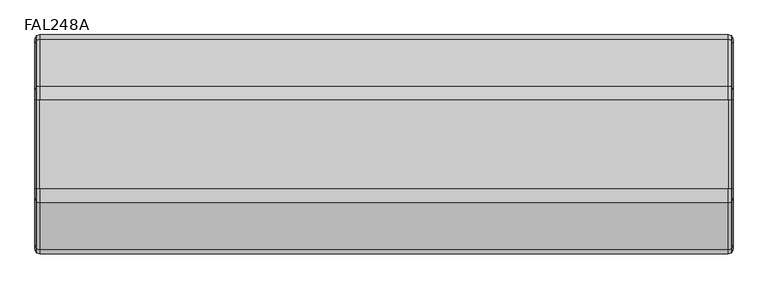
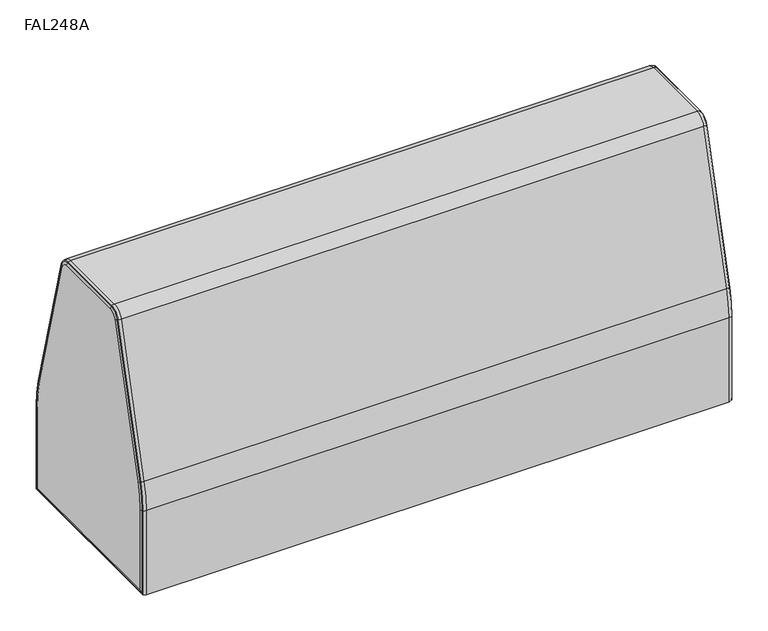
"""IFC4 building model written with IfcOpenShell, lengths in millimetres: furniture geometry, Stance_HC-Flora-Seat_Straight-Double_Side : FAL248A."""

from ifc_helpers import new_model, si_unit, point, frame, origin, place, context, project, spatial, circle_curve, ellipse_curve, trimmed, source, transform, mapped, element, save
from ifc_brep_helpers import plane_surface, cylinder_surface, revolved_surface, advanced_brep


def fal248a_cc7b1910(model_context):
    return source(origin(), model_context, "Body", "AdvancedBrep", [
        advanced_brep(
        [(1231.9, -184.6252072, 207.1687439), (1231.9, 184.6252072, 207.1687439), (1231.9, 184.6252072, 383.9115542), (1231.9, 177.1333598, 440.8177792), (1231.9, 94.5959207, 748.8516661), (1231.9, 78.4951447, 761.2062258), (1231.9, -78.4951447, 761.2062258), (1231.9, -94.5959207, 748.8516661), (1231.9, -177.1333598, 440.8177792), (1231.9, -184.6252072, 383.9115542), (0.0, 184.6252072, 207.1687439), (0.0, -184.6252072, 207.1687439), (0.0, -184.6252072, 383.9115542), (0.0, -177.1333598, 440.8177792), (0.0, -94.5959207, 748.8516661), (0.0, -78.4951447, 761.2062258), (0.0, 78.4951447, 761.2062258), (0.0, 94.5959207, 748.8516661), (0.0, 177.1333598, 440.8177792), (0.0, 184.6252072, 383.9115542), (1223.4158065, -193.3564572, 198.4374939), (8.4841935, -193.3564572, 198.4374939), (8.4841935, 193.3564572, 198.4374939), (1223.4158065, 193.3564572, 198.4374939), (1223.4158065, 78.4951447, 769.9374758), (8.4841935, 78.4951447, 769.9374758), (8.4841935, -78.4951447, 769.9374758), (1223.4158065, -78.4951447, 769.9374758), (2.6434528, -190.3181767, 201.4757744), (2.6434528, 190.3181767, 201.4757744), (2.5810757, 192.2518664, 199.5420847), (2.5810757, -192.2518664, 199.5420847), (2.6434528, 78.4951447, 766.8991953), (2.6434528, -78.4951447, 766.8991953), (2.5810757, -78.4951447, 768.832885), (2.5810757, 78.4951447, 768.832885), (1229.3189243, 192.2518664, 199.5420847), (1229.3189243, -192.2518664, 199.5420847), (1229.2565472, 190.3181767, 201.4757744), (1229.2565472, -190.3181767, 201.4757744), (1229.3189243, -78.4951447, 768.832885), (1229.3189243, 78.4951447, 768.832885), (1229.2565472, -78.4951447, 766.8991953), (1229.2565472, 78.4951447, 766.8991953), (1223.4158065, -103.0296605, 751.1114801), (1229.3189243, -101.9627077, 750.825591), (1229.2565472, -100.0949069, 750.3251152), (2.6434528, -100.0949069, 750.3251152), (2.5810757, -101.9627077, 750.825591), (8.4841935, -103.0296605, 751.1114801), (1223.4158065, -185.5670997, 443.0775932), (1229.3189243, -184.5001469, 442.791704), (1229.2565472, -182.6323461, 442.2912283), (2.6434528, -182.6323461, 442.2912283), (2.5810757, -184.5001469, 442.791704), (8.4841935, -185.5670997, 443.0775932), (1223.4158065, -193.3564572, 383.9115542), (1229.3189243, -192.2518664, 383.9115542), (1229.2565472, -190.3181767, 383.9115542), (2.6434528, -190.3181767, 383.9115542), (2.5810757, -192.2518664, 383.9115542), (8.4841935, -193.3564572, 383.9115542), (1223.4158065, 193.3564572, 383.9115542), (1229.3189243, 192.2518664, 383.9115542), (1229.2565472, 190.3181767, 383.9115542), (2.6434528, 190.3181767, 383.9115542), (2.5810757, 192.2518664, 383.9115542), (8.4841935, 193.3564572, 383.9115542), (1223.4158065, 185.5670997, 443.0775932), (1229.3189243, 184.5001469, 442.791704), (1229.2565472, 182.6323461, 442.2912283), (2.6434528, 182.6323461, 442.2912283), (2.5810757, 184.5001469, 442.791704), (8.4841935, 185.5670997, 443.0775932), (1223.4158065, 103.0296605, 751.1114801), (1229.3189243, 101.9627077, 750.825591), (1229.2565472, 100.0949069, 750.3251152), (2.6434528, 100.0949069, 750.3251152), (2.5810757, 101.9627077, 750.825591), (8.4841935, 103.0296605, 751.1114801)],
        [
            (0, 1),
            (1, 2),
            (2, 3, circle_curve(frame((1231.9, -35.2435428, 383.9115542), z_axis=(1.0, 0.0, 0.0), x_axis=(0.0, 1.0, 0.0)), 219.86875)),
            (3, 4),
            (4, 5, circle_curve(frame((1231.9, 78.4951447, 744.5374758), z_axis=(1.0, 0.0, 0.0), x_axis=(0.0, 0.9659258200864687, 0.2588190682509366)), 16.66875)),
            (5, 6),
            (6, 7, circle_curve(frame((1231.9, -78.4951447, 744.5374758), z_axis=(1.0, 0.0, 0.0), x_axis=(0.0, 0.0, 1.0)), 16.66875)),
            (7, 8),
            (8, 9, circle_curve(frame((1231.9, 35.2435428, 383.9115542), z_axis=(1.0, 0.0, 0.0), x_axis=(0.0, -0.9659258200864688, 0.25881906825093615)), 219.86875)),
            (9, 0),
            (10, 11),
            (11, 12),
            (12, 13, circle_curve(frame((0.0, 35.2435428, 383.9115542), z_axis=(-1.0, 0.0, 0.0), x_axis=(0.0, -0.9659258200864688, 0.25881906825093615)), 219.86875)),
            (13, 14),
            (14, 15, circle_curve(frame((0.0, -78.4951447, 744.5374758), z_axis=(-1.0, 0.0, 0.0), x_axis=(0.0, 0.0, 1.0)), 16.66875)),
            (15, 16),
            (16, 17, circle_curve(frame((0.0, 78.4951447, 744.5374758), z_axis=(-1.0, 0.0, 0.0), x_axis=(0.0, 0.9659258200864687, 0.2588190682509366)), 16.66875)),
            (17, 18),
            (18, 19, circle_curve(frame((0.0, -35.2435428, 383.9115542), z_axis=(-1.0, 0.0, 0.0), x_axis=(0.0, 1.0, 0.0)), 219.86875)),
            (19, 10),
            (20, 21),
            (21, 22),
            (22, 23),
            (23, 20),
            (24, 25),
            (25, 26),
            (26, 27),
            (27, 24),
            (28, 11, ellipse_curve(frame((7.4519478, -184.6252072, 207.1687439), z_axis=(0.0, 0.7071067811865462, -0.7071067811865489), x_axis=(0.0, -0.7071067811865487, -0.7071067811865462)), 10.5386456, 7.4519478)),
            (10, 29, ellipse_curve(frame((7.4519478, 184.6252072, 207.1687439), z_axis=(0.0, -0.7071067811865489, -0.707106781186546), x_axis=(0.0, -0.7071067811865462, 0.7071067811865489)), 10.5386456, 7.4519478)),
            (29, 28),
            (29, 30, ellipse_curve(frame((2.9517888, 191.295974, 200.4979772), z_axis=(0.0, -0.7071067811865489, -0.707106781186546), x_axis=(0.0, -0.7071067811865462, 0.7071067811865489)), 1.4499369, 1.0252602)),
            (30, 31),
            (31, 28, ellipse_curve(frame((2.9517888, -191.295974, 200.4979772), z_axis=(0.0, 0.7071067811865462, -0.7071067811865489), x_axis=(0.0, -0.7071067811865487, -0.7071067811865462)), 1.4499369, 1.0252602)),
            (21, 31, ellipse_curve(frame((8.4841935, -177.0305381, 214.763413), z_axis=(0.0, 0.7071067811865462, -0.7071067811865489), x_axis=(0.0, -0.7071067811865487, -0.7071067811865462)), 23.0883362, 16.3259191)),
            (30, 22, ellipse_curve(frame((8.4841935, 177.0305381, 214.763413), z_axis=(0.0, -0.7071067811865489, -0.707106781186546), x_axis=(0.0, -0.7071067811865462, 0.7071067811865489)), 23.0883362, 16.3259191)),
            (32, 16, circle_curve(frame((7.4519478, 78.4951447, 761.2062258), z_axis=(0.0, -1.0, 0.0), x_axis=(0.0, 0.0, -1.0)), 7.4519478)),
            (15, 33, circle_curve(frame((7.4519478, -78.4951447, 761.2062258), z_axis=(0.0, 1.0, 0.0), x_axis=(0.0, 0.0, -1.0)), 7.4519478)),
            (33, 32),
            (33, 34, circle_curve(frame((2.9517888, -78.4951447, 767.8769926), z_axis=(0.0, 1.0, 0.0), x_axis=(0.0, 0.0, -1.0)), 1.0252602)),
            (34, 35),
            (35, 32, circle_curve(frame((2.9517888, 78.4951447, 767.8769926), z_axis=(0.0, -1.0, 0.0), x_axis=(0.0, 0.0, -1.0)), 1.0252602)),
            (25, 35, circle_curve(frame((8.4841935, 78.4951447, 753.6115567), z_axis=(0.0, -1.0, 0.0), x_axis=(0.0, 0.0, -1.0)), 16.3259191)),
            (34, 26, circle_curve(frame((8.4841935, -78.4951447, 753.6115567), z_axis=(0.0, 1.0, 0.0), x_axis=(0.0, 0.0, -1.0)), 16.3259191)),
            (23, 36, ellipse_curve(frame((1223.4158065, 177.0305381, 214.763413), z_axis=(0.0, -0.7071067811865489, -0.707106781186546), x_axis=(0.0, -0.7071067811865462, 0.7071067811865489)), 23.0883362, 16.3259191)),
            (36, 37),
            (37, 20, ellipse_curve(frame((1223.4158065, -177.0305381, 214.763413), z_axis=(0.0, 0.7071067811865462, -0.7071067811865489), x_axis=(0.0, -0.7071067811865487, -0.7071067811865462)), 23.0883362, 16.3259191)),
            (36, 38, ellipse_curve(frame((1228.9482112, 191.295974, 200.4979772), z_axis=(0.0, -0.7071067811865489, -0.707106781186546), x_axis=(0.0, -0.7071067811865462, 0.7071067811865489)), 1.4499369, 1.0252602)),
            (38, 39),
            (39, 37, ellipse_curve(frame((1228.9482112, -191.295974, 200.4979772), z_axis=(0.0, 0.7071067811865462, -0.7071067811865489), x_axis=(0.0, -0.7071067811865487, -0.7071067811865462)), 1.4499369, 1.0252602)),
            (38, 1, ellipse_curve(frame((1224.4480522, 184.6252072, 207.1687439), z_axis=(0.0, -0.7071067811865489, -0.707106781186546), x_axis=(0.0, -0.7071067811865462, 0.7071067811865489)), 10.5386456, 7.4519478)),
            (0, 39, ellipse_curve(frame((1224.4480522, -184.6252072, 207.1687439), z_axis=(0.0, 0.7071067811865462, -0.7071067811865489), x_axis=(0.0, -0.7071067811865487, -0.7071067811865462)), 10.5386456, 7.4519478)),
            (27, 40, circle_curve(frame((1223.4158065, -78.4951447, 753.6115567), z_axis=(0.0, 1.0, 0.0), x_axis=(0.0, 0.0, -1.0)), 16.3259191)),
            (40, 41),
            (41, 24, circle_curve(frame((1223.4158065, 78.4951447, 753.6115567), z_axis=(0.0, -1.0, 0.0), x_axis=(0.0, 0.0, -1.0)), 16.3259191)),
            (40, 42, circle_curve(frame((1228.9482112, -78.4951447, 767.8769926), z_axis=(0.0, 1.0, 0.0), x_axis=(0.0, 0.0, -1.0)), 1.0252602)),
            (42, 43),
            (43, 41, circle_curve(frame((1228.9482112, 78.4951447, 767.8769926), z_axis=(0.0, -1.0, 0.0), x_axis=(0.0, 0.0, -1.0)), 1.0252602)),
            (42, 6, circle_curve(frame((1224.4480522, -78.4951447, 761.2062258), z_axis=(0.0, 1.0, 0.0), x_axis=(0.0, 0.0, -1.0)), 7.4519478)),
            (5, 43, circle_curve(frame((1224.4480522, 78.4951447, 761.2062258), z_axis=(0.0, -1.0, 0.0), x_axis=(0.0, 0.0, -1.0)), 7.4519478)),
            (27, 44, circle_curve(frame((1223.4158065, -78.4951447, 744.5374758), z_axis=(1.0, 0.0, 0.0), x_axis=(0.0, 0.0, 1.0)), 25.4)),
            (44, 45, circle_curve(frame((1223.4158065, -87.2600337, 746.8860209), z_axis=(0.0, 0.2588190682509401, 0.9659258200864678), x_axis=(0.0, 0.9659258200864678, -0.2588190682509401)), 16.3259191)),
            (45, 40, circle_curve(frame((1229.3189243, -78.4951447, 744.5374758), z_axis=(-1.0, 0.0, 0.0), x_axis=(0.0, 0.0, 1.0)), 24.2954092)),
            (45, 46, circle_curve(frame((1228.9482112, -101.0393866, 750.5781878), z_axis=(0.0, 0.25881906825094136, 0.9659258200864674), x_axis=(0.0, 0.9659258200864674, -0.25881906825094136)), 1.0252602)),
            (46, 42, circle_curve(frame((1229.2565472, -78.4951447, 744.5374758), z_axis=(-1.0, 0.0, 0.0), x_axis=(0.0, 0.0, 1.0)), 22.3617195)),
            (46, 7, circle_curve(frame((1224.4480522, -94.5959207, 748.8516661), z_axis=(0.0, 0.2588190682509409, 0.9659258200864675), x_axis=(0.0, 0.9659258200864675, -0.2588190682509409)), 7.4519478)),
            (14, 47, circle_curve(frame((7.4519478, -94.5959207, 748.8516661), z_axis=(0.0, 0.25881906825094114, 0.9659258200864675), x_axis=(0.0, 0.9659258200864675, -0.25881906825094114)), 7.4519478)),
            (47, 33, circle_curve(frame((2.6434528, -78.4951447, 744.5374758), z_axis=(-1.0, 0.0, 0.0), x_axis=(0.0, 0.0, 1.0)), 22.3617195)),
            (47, 48, circle_curve(frame((2.9517888, -101.0393866, 750.5781878), z_axis=(0.0, 0.25881906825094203, 0.9659258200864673), x_axis=(0.0, 0.9659258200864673, -0.25881906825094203)), 1.0252602)),
            (48, 34, circle_curve(frame((2.5810757, -78.4951447, 744.5374758), z_axis=(-1.0, 0.0, 0.0), x_axis=(0.0, 0.0, 1.0)), 24.2954092)),
            (48, 49, circle_curve(frame((8.4841935, -87.2600337, 746.8860209), z_axis=(0.0, 0.2588190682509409, 0.9659258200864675), x_axis=(0.0, 0.9659258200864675, -0.2588190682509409)), 16.3259191)),
            (49, 26, circle_curve(frame((8.4841935, -78.4951447, 744.5374758), z_axis=(-1.0, 0.0, 0.0), x_axis=(0.0, 0.0, 1.0)), 25.4)),
            (49, 44),
            (44, 50),
            (50, 51, circle_curve(frame((1223.4158065, -169.7974729, 438.852134), z_axis=(0.0, 0.25881906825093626, 0.9659258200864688), x_axis=(0.0, 0.9659258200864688, -0.25881906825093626)), 16.3259191)),
            (51, 45),
            (51, 52, circle_curve(frame((1228.9482112, -183.5768257, 442.5443008), z_axis=(0.0, 0.25881906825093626, 0.9659258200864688), x_axis=(0.0, 0.9659258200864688, -0.25881906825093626)), 1.0252602)),
            (52, 46),
            (52, 8, circle_curve(frame((1224.4480522, -177.1333598, 440.8177792), z_axis=(0.0, 0.25881906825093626, 0.9659258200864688), x_axis=(0.0, 0.9659258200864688, -0.25881906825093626)), 7.4519478)),
            (13, 53, circle_curve(frame((7.4519478, -177.1333598, 440.8177792), z_axis=(0.0, 0.25881906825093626, 0.9659258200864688), x_axis=(0.0, 0.9659258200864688, -0.25881906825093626)), 7.4519478)),
            (53, 47),
            (53, 54, circle_curve(frame((2.9517888, -183.5768257, 442.5443008), z_axis=(0.0, 0.25881906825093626, 0.9659258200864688), x_axis=(0.0, 0.9659258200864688, -0.25881906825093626)), 1.0252602)),
            (54, 48),
            (54, 55, circle_curve(frame((8.4841935, -169.7974729, 438.852134), z_axis=(0.0, 0.25881906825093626, 0.9659258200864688), x_axis=(0.0, 0.9659258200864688, -0.25881906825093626)), 16.3259191)),
            (55, 49),
            (55, 50),
            (50, 56, circle_curve(frame((1223.4158065, 35.2435428, 383.9115542), z_axis=(1.0, 0.0, 0.0), x_axis=(0.0, -0.9659258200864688, 0.25881906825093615)), 228.6)),
            (56, 57, circle_curve(frame((1223.4158065, -177.0305381, 383.9115542), z_axis=(0.0, 0.0, 1.0), x_axis=(0.0, 1.0, 0.0)), 16.3259191)),
            (57, 51, circle_curve(frame((1229.3189243, 35.2435428, 383.9115542), z_axis=(-1.0, 0.0, 0.0), x_axis=(0.0, -0.9659258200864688, 0.25881906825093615)), 227.4954092)),
            (57, 58, circle_curve(frame((1228.9482112, -191.295974, 383.9115542), z_axis=(0.0, 0.0, 1.0), x_axis=(0.0, 1.0, 0.0)), 1.0252602)),
            (58, 52, circle_curve(frame((1229.2565472, 35.2435428, 383.9115542), z_axis=(-1.0, 0.0, 0.0), x_axis=(0.0, -0.9659258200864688, 0.25881906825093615)), 225.5617195)),
            (58, 9, circle_curve(frame((1224.4480522, -184.6252072, 383.9115542), z_axis=(0.0, 0.0, 1.0), x_axis=(0.0, 1.0, 0.0)), 7.4519478)),
            (12, 59, circle_curve(frame((7.4519478, -184.6252072, 383.9115542), z_axis=(0.0, 0.0, 0.9999999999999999), x_axis=(0.0, 0.9999999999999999, 0.0)), 7.4519478)),
            (59, 53, circle_curve(frame((2.6434528, 35.2435428, 383.9115542), z_axis=(-1.0, 0.0, 0.0), x_axis=(0.0, -0.9659258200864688, 0.25881906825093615)), 225.5617195)),
            (59, 60, circle_curve(frame((2.9517888, -191.295974, 383.9115542), z_axis=(0.0, 0.0, 1.0), x_axis=(0.0, 1.0, 0.0)), 1.0252602)),
            (60, 54, circle_curve(frame((2.5810757, 35.2435428, 383.9115542), z_axis=(-1.0, 0.0, 0.0), x_axis=(0.0, -0.9659258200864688, 0.25881906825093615)), 227.4954092)),
            (60, 61, circle_curve(frame((8.4841935, -177.0305381, 383.9115542), z_axis=(0.0, 0.0, 1.0), x_axis=(0.0, 1.0, 0.0)), 16.3259191)),
            (61, 55, circle_curve(frame((8.4841935, 35.2435428, 383.9115542), z_axis=(-1.0, 0.0, 0.0), x_axis=(0.0, -0.9659258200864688, 0.25881906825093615)), 228.6)),
            (61, 56),
            (37, 57),
            (56, 20),
            (39, 58),
            (28, 59),
            (31, 60),
            (21, 61),
            (23, 62),
            (62, 63, circle_curve(frame((1223.4158065, 177.0305381, 383.9115542), z_axis=(0.0, 0.0, -1.0), x_axis=(0.0, -1.0, 0.0)), 16.3259191)),
            (63, 36),
            (63, 64, circle_curve(frame((1228.9482112, 191.295974, 383.9115542), z_axis=(0.0, 0.0, -1.0), x_axis=(0.0, -1.0, 0.0)), 1.0252602)),
            (64, 38),
            (64, 2, circle_curve(frame((1224.4480522, 184.6252072, 383.9115542), z_axis=(0.0, 0.0, -1.0), x_axis=(0.0, -1.0, 0.0)), 7.4519478)),
            (19, 65, circle_curve(frame((7.4519478, 184.6252072, 383.9115542), z_axis=(0.0, 0.0, -1.0), x_axis=(0.0, -1.0, 0.0)), 7.4519478)),
            (65, 29),
            (65, 66, circle_curve(frame((2.9517888, 191.295974, 383.9115542), z_axis=(0.0, 0.0, -1.0), x_axis=(0.0, -1.0, 0.0)), 1.0252602)),
            (66, 30),
            (66, 67, circle_curve(frame((8.4841935, 177.0305381, 383.9115542), z_axis=(0.0, 0.0, -1.0), x_axis=(0.0, -1.0, 0.0)), 16.3259191)),
            (67, 22),
            (67, 62),
            (62, 68, circle_curve(frame((1223.4158065, -35.2435428, 383.9115542), z_axis=(1.0, 0.0, 0.0), x_axis=(0.0, 1.0, 0.0)), 228.6)),
            (68, 69, circle_curve(frame((1223.4158065, 169.7974729, 438.852134), z_axis=(0.0, 0.2588190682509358, -0.9659258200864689), x_axis=(0.0, -0.9659258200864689, -0.2588190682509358)), 16.3259191)),
            (69, 63, circle_curve(frame((1229.3189243, -35.2435428, 383.9115542), z_axis=(-1.0, 0.0, 0.0), x_axis=(0.0, 1.0, 0.0)), 227.4954092)),
            (69, 70, circle_curve(frame((1228.9482112, 183.5768257, 442.5443008), z_axis=(0.0, 0.2588190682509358, -0.9659258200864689), x_axis=(0.0, -0.9659258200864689, -0.2588190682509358)), 1.0252602)),
            (70, 64, circle_curve(frame((1229.2565472, -35.2435428, 383.9115542), z_axis=(-1.0, 0.0, 0.0), x_axis=(0.0, 1.0, 0.0)), 225.5617195)),
            (70, 3, circle_curve(frame((1224.4480522, 177.1333598, 440.8177792), z_axis=(0.0, 0.2588190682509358, -0.9659258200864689), x_axis=(0.0, -0.9659258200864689, -0.2588190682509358)), 7.4519478)),
            (18, 71, circle_curve(frame((7.4519478, 177.1333598, 440.8177792), z_axis=(0.0, 0.2588190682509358, -0.9659258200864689), x_axis=(0.0, -0.9659258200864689, -0.2588190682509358)), 7.4519478)),
            (71, 65, circle_curve(frame((2.6434528, -35.2435428, 383.9115542), z_axis=(-1.0, 0.0, 0.0), x_axis=(0.0, 1.0, 0.0)), 225.5617195)),
            (71, 72, circle_curve(frame((2.9517888, 183.5768257, 442.5443008), z_axis=(0.0, 0.25881906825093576, -0.9659258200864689), x_axis=(0.0, -0.9659258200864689, -0.25881906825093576)), 1.0252602)),
            (72, 66, circle_curve(frame((2.5810757, -35.2435428, 383.9115542), z_axis=(-1.0, 0.0, 0.0), x_axis=(0.0, 1.0, 0.0)), 227.4954092)),
            (72, 73, circle_curve(frame((8.4841935, 169.7974729, 438.852134), z_axis=(0.0, 0.25881906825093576, -0.9659258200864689), x_axis=(0.0, -0.9659258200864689, -0.25881906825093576)), 16.3259191)),
            (73, 67, circle_curve(frame((8.4841935, -35.2435428, 383.9115542), z_axis=(-1.0, 0.0, 0.0), x_axis=(0.0, 1.0, 0.0)), 228.6)),
            (73, 68),
            (68, 74),
            (74, 75, circle_curve(frame((1223.4158065, 87.2600337, 746.8860209), z_axis=(0.0, 0.25881906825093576, -0.9659258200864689), x_axis=(0.0, -0.9659258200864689, -0.25881906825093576)), 16.3259191)),
            (75, 69),
            (75, 76, circle_curve(frame((1228.9482112, 101.0393866, 750.5781878), z_axis=(0.0, 0.25881906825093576, -0.9659258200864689), x_axis=(0.0, -0.9659258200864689, -0.25881906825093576)), 1.0252602)),
            (76, 70),
            (76, 4, circle_curve(frame((1224.4480522, 94.5959207, 748.8516661), z_axis=(0.0, 0.25881906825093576, -0.9659258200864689), x_axis=(0.0, -0.9659258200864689, -0.25881906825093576)), 7.4519478)),
            (17, 77, circle_curve(frame((7.4519478, 94.5959207, 748.8516661), z_axis=(0.0, 0.25881906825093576, -0.9659258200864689), x_axis=(0.0, -0.9659258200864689, -0.25881906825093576)), 7.4519478)),
            (77, 71),
            (77, 78, circle_curve(frame((2.9517888, 101.0393866, 750.5781878), z_axis=(0.0, 0.25881906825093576, -0.9659258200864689), x_axis=(0.0, -0.9659258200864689, -0.25881906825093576)), 1.0252602)),
            (78, 72),
            (78, 79, circle_curve(frame((8.4841935, 87.2600337, 746.8860209), z_axis=(0.0, 0.25881906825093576, -0.9659258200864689), x_axis=(0.0, -0.9659258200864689, -0.25881906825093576)), 16.3259191)),
            (79, 73),
            (79, 74),
            (41, 75, circle_curve(frame((1229.3189243, 78.4951447, 744.5374758), z_axis=(-1.0, 0.0, 0.0), x_axis=(0.0, 0.9659258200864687, 0.2588190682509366)), 24.2954092)),
            (74, 24, circle_curve(frame((1223.4158065, 78.4951447, 744.5374758), z_axis=(1.0, 0.0, 0.0), x_axis=(0.0, 0.9659258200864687, 0.2588190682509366)), 25.4)),
            (43, 76, circle_curve(frame((1229.2565472, 78.4951447, 744.5374758), z_axis=(-1.0, 0.0, 0.0), x_axis=(0.0, 0.9659258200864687, 0.2588190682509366)), 22.3617195)),
            (32, 77, circle_curve(frame((2.6434528, 78.4951447, 744.5374758), z_axis=(-1.0, 0.0, 0.0), x_axis=(0.0, 0.9659258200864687, 0.2588190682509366)), 22.3617195)),
            (35, 78, circle_curve(frame((2.5810757, 78.4951447, 744.5374758), z_axis=(-1.0, 0.0, 0.0), x_axis=(0.0, 0.9659258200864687, 0.2588190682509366)), 24.2954092)),
            (25, 79, circle_curve(frame((8.4841935, 78.4951447, 744.5374758), z_axis=(-1.0, 0.0, 0.0), x_axis=(0.0, 0.9659258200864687, 0.2588190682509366)), 25.4)),
        ],
        [
            plane_surface(frame((1231.9, -78.4951447, 761.2062258), z_axis=(1.0, 0.0, 0.0), x_axis=(0.0, -1.0, 0.0))),
            plane_surface(frame((0.0, -78.4951447, 761.2062258), z_axis=(-1.0, 0.0, 0.0), x_axis=(0.0, 1.0, 0.0))),
            plane_surface(frame((8.4841935, -193.3564572, 198.4374939), z_axis=(0.0, 0.0, -1.0), x_axis=(0.0, 1.0, 0.0))),
            plane_surface(frame((8.4841935, 78.4951447, 769.9374758), z_axis=(0.0, 0.0, 1.0), x_axis=(0.0, -1.0, 0.0))),
            cylinder_surface(frame((7.4519478, -193.3564572, 207.1687439), z_axis=(0.0, -1.0, 0.0), x_axis=(0.0, 0.0, 1.0)), 7.4519478),
            cylinder_surface(frame((2.9517888, -193.3564572, 200.4979772), z_axis=(0.0, -1.0, 0.0), x_axis=(0.0, 0.0, 1.0)), 1.0252602),
            cylinder_surface(frame((8.4841935, -193.3564572, 214.763413), z_axis=(0.0, -1.0, 0.0), x_axis=(0.0, 0.0, 1.0)), 16.3259191),
            cylinder_surface(frame((7.4519478, 78.4951447, 761.2062258), z_axis=(0.0, 1.0, 0.0), x_axis=(0.0, 0.0, -1.0)), 7.4519478),
            cylinder_surface(frame((2.9517888, 78.4951447, 767.8769926), z_axis=(0.0, 1.0, 0.0), x_axis=(0.0, 0.0, -1.0)), 1.0252602),
            cylinder_surface(frame((8.4841935, 78.4951447, 753.6115567), z_axis=(0.0, 1.0, 0.0), x_axis=(0.0, 0.0, -1.0)), 16.3259191),
            cylinder_surface(frame((1223.4158065, -193.3564572, 214.763413), z_axis=(0.0, -1.0, 0.0), x_axis=(0.0, 0.0, 1.0)), 16.3259191),
            cylinder_surface(frame((1228.9482112, -193.3564572, 200.4979772), z_axis=(0.0, -1.0, 0.0), x_axis=(0.0, 0.0, 1.0)), 1.0252602),
            cylinder_surface(frame((1224.4480522, -193.3564572, 207.1687439), z_axis=(0.0, -1.0, 0.0), x_axis=(0.0, 0.0, 1.0)), 7.4519478),
            cylinder_surface(frame((1223.4158065, 78.4951447, 753.6115567), z_axis=(0.0, 1.0, 0.0), x_axis=(0.0, 0.0, -1.0)), 16.3259191),
            cylinder_surface(frame((1228.9482112, 78.4951447, 767.8769926), z_axis=(0.0, 1.0, 0.0), x_axis=(0.0, 0.0, -1.0)), 1.0252602),
            cylinder_surface(frame((1224.4480522, 78.4951447, 761.2062258), z_axis=(0.0, 1.0, 0.0), x_axis=(0.0, 0.0, -1.0)), 7.4519478),
            revolved_surface(trimmed(ellipse_curve(frame((1223.4158065, -78.4951447, 753.6115567), z_axis=(0.0, 1.0, 0.0), x_axis=(0.0, 0.0, -1.0)), 16.3259191, 16.3259191), [point((1223.4158065, -78.4951447, 769.9374758))], [point((1229.3189243, -78.4951447, 768.832885))], True, "CARTESIAN"), (0.0, -78.4951447, 744.5374758), (1.0, 0.0, 0.0)),
            revolved_surface(trimmed(ellipse_curve(frame((1228.9482112, -78.4951447, 767.8769926), z_axis=(0.0, 1.0, 0.0), x_axis=(0.0, 0.0, -1.0)), 1.0252602, 1.0252602), [point((1229.3189243, -78.4951447, 768.832885))], [point((1229.2565472, -78.4951447, 766.8991953))], True, "CARTESIAN"), (0.0, -78.4951447, 744.5374758), (1.0, 0.0, 0.0)),
            revolved_surface(trimmed(ellipse_curve(frame((1224.4480522, -78.4951447, 761.2062258), z_axis=(0.0, 1.0, 0.0), x_axis=(0.0, 0.0, -1.0)), 7.4519478, 7.4519478), [point((1229.2565472, -78.4951447, 766.8991953))], [point((1231.9, -78.4951447, 761.2062258))], True, "CARTESIAN"), (0.0, -78.4951447, 744.5374758), (1.0, 0.0, 0.0)),
            revolved_surface(trimmed(ellipse_curve(frame((7.4519478, -78.4951447, 761.2062258), z_axis=(0.0, 1.0, 0.0), x_axis=(0.0, 0.0, -1.0)), 7.4519478, 7.4519478), [point((0.0, -78.4951447, 761.2062258))], [point((2.6434528, -78.4951447, 766.8991953))], True, "CARTESIAN"), (0.0, -78.4951447, 744.5374758), (1.0, 0.0, 0.0)),
            revolved_surface(trimmed(ellipse_curve(frame((2.9517888, -78.4951447, 767.8769926), z_axis=(0.0, 1.0, 0.0), x_axis=(0.0, 0.0, -1.0)), 1.0252602, 1.0252602), [point((2.6434528, -78.4951447, 766.8991953))], [point((2.5810757, -78.4951447, 768.832885))], True, "CARTESIAN"), (0.0, -78.4951447, 744.5374758), (1.0, 0.0, 0.0)),
            revolved_surface(trimmed(ellipse_curve(frame((8.4841935, -78.4951447, 753.6115567), z_axis=(0.0, 1.0, 0.0), x_axis=(0.0, 0.0, -1.0)), 16.3259191, 16.3259191), [point((2.5810757, -78.4951447, 768.832885))], [point((8.4841935, -78.4951447, 769.9374758))], True, "CARTESIAN"), (0.0, -78.4951447, 744.5374758), (1.0, 0.0, 0.0)),
            cylinder_surface(frame((0.0, -78.4951447, 744.5374758), z_axis=(1.0, 0.0, 0.0), x_axis=(0.0, 0.0, 1.0)), 25.4),
            cylinder_surface(frame((1223.4158065, -87.2600337, 746.8860209), z_axis=(0.0, 0.25881906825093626, 0.9659258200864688), x_axis=(0.0, 0.9659258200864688, -0.25881906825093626)), 16.3259191),
            cylinder_surface(frame((1228.9482112, -101.0393866, 750.5781878), z_axis=(0.0, 0.25881906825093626, 0.9659258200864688), x_axis=(0.0, 0.9659258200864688, -0.25881906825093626)), 1.0252602),
            cylinder_surface(frame((1224.4480522, -94.5959207, 748.8516661), z_axis=(0.0, 0.25881906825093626, 0.9659258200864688), x_axis=(0.0, 0.9659258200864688, -0.25881906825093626)), 7.4519478),
            cylinder_surface(frame((7.4519478, -94.5959207, 748.8516661), z_axis=(0.0, 0.25881906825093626, 0.9659258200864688), x_axis=(0.0, 0.9659258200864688, -0.25881906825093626)), 7.4519478),
            cylinder_surface(frame((2.9517888, -101.0393866, 750.5781878), z_axis=(0.0, 0.25881906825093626, 0.9659258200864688), x_axis=(0.0, 0.9659258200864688, -0.25881906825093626)), 1.0252602),
            cylinder_surface(frame((8.4841935, -87.2600337, 746.8860209), z_axis=(0.0, 0.25881906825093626, 0.9659258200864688), x_axis=(0.0, 0.9659258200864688, -0.25881906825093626)), 16.3259191),
            plane_surface(frame((8.4841935, -103.0296605, 751.1114801), z_axis=(0.0, -0.9659258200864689, 0.2588190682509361), x_axis=(0.0, -0.2588190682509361, -0.9659258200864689))),
            revolved_surface(trimmed(ellipse_curve(frame((1223.4158065, -169.7974729, 438.852134), z_axis=(0.0, 0.2588190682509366, 0.9659258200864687), x_axis=(0.0, 0.9659258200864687, -0.2588190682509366)), 16.3259191, 16.3259191), [point((1223.4158065, -185.5670997, 443.0775932))], [point((1229.3189243, -184.5001469, 442.791704))], True, "CARTESIAN"), (0.0, 35.2435428, 383.9115542), (1.0, 0.0, 0.0)),
            revolved_surface(trimmed(ellipse_curve(frame((1228.9482112, -183.5768257, 442.5443008), z_axis=(0.0, 0.2588190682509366, 0.9659258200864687), x_axis=(0.0, 0.9659258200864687, -0.2588190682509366)), 1.0252602, 1.0252602), [point((1229.3189243, -184.5001469, 442.791704))], [point((1229.2565472, -182.6323461, 442.2912283))], True, "CARTESIAN"), (0.0, 35.2435428, 383.9115542), (1.0, 0.0, 0.0)),
            revolved_surface(trimmed(ellipse_curve(frame((1224.4480522, -177.1333598, 440.8177792), z_axis=(0.0, 0.2588190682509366, 0.9659258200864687), x_axis=(0.0, 0.9659258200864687, -0.2588190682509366)), 7.4519478, 7.4519478), [point((1229.2565472, -182.6323461, 442.2912283))], [point((1231.9, -177.1333598, 440.8177792))], True, "CARTESIAN"), (0.0, 35.2435428, 383.9115542), (1.0, 0.0, 0.0)),
            revolved_surface(trimmed(ellipse_curve(frame((7.4519478, -177.1333598, 440.8177792), z_axis=(0.0, 0.2588190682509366, 0.9659258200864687), x_axis=(0.0, 0.9659258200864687, -0.2588190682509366)), 7.4519478, 7.4519478), [point((0.0, -177.1333598, 440.8177792))], [point((2.6434528, -182.6323461, 442.2912283))], True, "CARTESIAN"), (0.0, 35.2435428, 383.9115542), (1.0, 0.0, 0.0)),
            revolved_surface(trimmed(ellipse_curve(frame((2.9517888, -183.5768257, 442.5443008), z_axis=(0.0, 0.2588190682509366, 0.9659258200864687), x_axis=(0.0, 0.9659258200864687, -0.2588190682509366)), 1.0252602, 1.0252602), [point((2.6434528, -182.6323461, 442.2912283))], [point((2.5810757, -184.5001469, 442.791704))], True, "CARTESIAN"), (0.0, 35.2435428, 383.9115542), (1.0, 0.0, 0.0)),
            revolved_surface(trimmed(ellipse_curve(frame((8.4841935, -169.7974729, 438.852134), z_axis=(0.0, 0.2588190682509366, 0.9659258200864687), x_axis=(0.0, 0.9659258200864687, -0.2588190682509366)), 16.3259191, 16.3259191), [point((2.5810757, -184.5001469, 442.791704))], [point((8.4841935, -185.5670997, 443.0775932))], True, "CARTESIAN"), (0.0, 35.2435428, 383.9115542), (1.0, 0.0, 0.0)),
            cylinder_surface(frame((0.0, 35.2435428, 383.9115542), z_axis=(1.0, 0.0, 0.0), x_axis=(0.0, -0.9659258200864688, 0.25881906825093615)), 228.6),
            cylinder_surface(frame((1223.4158065, -177.0305381, 383.9115542), z_axis=(0.0, 0.0, 1.0), x_axis=(0.0, 1.0, 0.0)), 16.3259191),
            cylinder_surface(frame((1228.9482112, -191.295974, 383.9115542), z_axis=(0.0, 0.0, 1.0), x_axis=(0.0, 1.0, 0.0)), 1.0252602),
            cylinder_surface(frame((1224.4480522, -184.6252072, 383.9115542), z_axis=(0.0, 0.0, 1.0), x_axis=(0.0, 1.0, 0.0)), 7.4519478),
            cylinder_surface(frame((7.4519478, -184.6252072, 383.9115542), z_axis=(0.0, 0.0, 1.0), x_axis=(0.0, 1.0, 0.0)), 7.4519478),
            cylinder_surface(frame((2.9517888, -191.295974, 383.9115542), z_axis=(0.0, 0.0, 1.0), x_axis=(0.0, 1.0, 0.0)), 1.0252602),
            cylinder_surface(frame((8.4841935, -177.0305381, 383.9115542), z_axis=(0.0, 0.0, 1.0), x_axis=(0.0, 1.0, 0.0)), 16.3259191),
            plane_surface(frame((8.4841935, -193.3564572, 383.9115542), z_axis=(0.0, -1.0, 0.0), x_axis=(0.0, 0.0, -1.0))),
            cylinder_surface(frame((1223.4158065, 177.0305381, 198.4374939), z_axis=(0.0, 0.0, -1.0), x_axis=(0.0, -1.0, 0.0)), 16.3259191),
            cylinder_surface(frame((1228.9482112, 191.295974, 198.4374939), z_axis=(0.0, 0.0, -1.0), x_axis=(0.0, -1.0, 0.0)), 1.0252602),
            cylinder_surface(frame((1224.4480522, 184.6252072, 198.4374939), z_axis=(0.0, 0.0, -1.0), x_axis=(0.0, -1.0, 0.0)), 7.4519478),
            cylinder_surface(frame((7.4519478, 184.6252072, 198.4374939), z_axis=(0.0, 0.0, -1.0), x_axis=(0.0, -1.0, 0.0)), 7.4519478),
            cylinder_surface(frame((2.9517888, 191.295974, 198.4374939), z_axis=(0.0, 0.0, -1.0), x_axis=(0.0, -1.0, 0.0)), 1.0252602),
            cylinder_surface(frame((8.4841935, 177.0305381, 198.4374939), z_axis=(0.0, 0.0, -1.0), x_axis=(0.0, -1.0, 0.0)), 16.3259191),
            plane_surface(frame((8.4841935, 193.3564572, 198.4374939), z_axis=(0.0, 1.0, 0.0), x_axis=(0.0, 0.0, 1.0))),
            revolved_surface(trimmed(ellipse_curve(frame((1223.4158065, 177.0305381, 383.9115542), z_axis=(0.0, 0.0, -1.0), x_axis=(0.0, -1.0, 0.0)), 16.3259191, 16.3259191), [point((1223.4158065, 193.3564572, 383.9115542))], [point((1229.3189243, 192.2518664, 383.9115542))], True, "CARTESIAN"), (0.0, -35.2435428, 383.9115542), (1.0, 0.0, 0.0)),
            revolved_surface(trimmed(ellipse_curve(frame((1228.9482112, 191.295974, 383.9115542), z_axis=(0.0, 0.0, -1.0), x_axis=(0.0, -1.0, 0.0)), 1.0252602, 1.0252602), [point((1229.3189243, 192.2518664, 383.9115542))], [point((1229.2565472, 190.3181767, 383.9115542))], True, "CARTESIAN"), (0.0, -35.2435428, 383.9115542), (1.0, 0.0, 0.0)),
            revolved_surface(trimmed(ellipse_curve(frame((1224.4480522, 184.6252072, 383.9115542), z_axis=(0.0, 0.0, -1.0), x_axis=(0.0, -1.0, 0.0)), 7.4519478, 7.4519478), [point((1229.2565472, 190.3181767, 383.9115542))], [point((1231.9, 184.6252072, 383.9115542))], True, "CARTESIAN"), (0.0, -35.2435428, 383.9115542), (1.0, 0.0, 0.0)),
            revolved_surface(trimmed(ellipse_curve(frame((7.4519478, 184.6252072, 383.9115542), z_axis=(0.0, 0.0, -1.0), x_axis=(0.0, -1.0, 0.0)), 7.4519478, 7.4519478), [point((0.0, 184.6252072, 383.9115542))], [point((2.6434528, 190.3181767, 383.9115542))], True, "CARTESIAN"), (0.0, -35.2435428, 383.9115542), (1.0, 0.0, 0.0)),
            revolved_surface(trimmed(ellipse_curve(frame((2.9517888, 191.295974, 383.9115542), z_axis=(0.0, 0.0, -1.0), x_axis=(0.0, -1.0, 0.0)), 1.0252602, 1.0252602), [point((2.6434528, 190.3181767, 383.9115542))], [point((2.5810757, 192.2518664, 383.9115542))], True, "CARTESIAN"), (0.0, -35.2435428, 383.9115542), (1.0, 0.0, 0.0)),
            revolved_surface(trimmed(ellipse_curve(frame((8.4841935, 177.0305381, 383.9115542), z_axis=(0.0, 0.0, -1.0), x_axis=(0.0, -1.0, 0.0)), 16.3259191, 16.3259191), [point((2.5810757, 192.2518664, 383.9115542))], [point((8.4841935, 193.3564572, 383.9115542))], True, "CARTESIAN"), (0.0, -35.2435428, 383.9115542), (1.0, 0.0, 0.0)),
            cylinder_surface(frame((0.0, -35.2435428, 383.9115542), z_axis=(1.0, 0.0, 0.0), x_axis=(0.0, 1.0, 0.0)), 228.6),
            cylinder_surface(frame((1223.4158065, 169.7974729, 438.852134), z_axis=(0.0, 0.25881906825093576, -0.9659258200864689), x_axis=(0.0, -0.9659258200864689, -0.25881906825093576)), 16.3259191),
            cylinder_surface(frame((1228.9482112, 183.5768257, 442.5443008), z_axis=(0.0, 0.25881906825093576, -0.9659258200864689), x_axis=(0.0, -0.9659258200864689, -0.25881906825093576)), 1.0252602),
            cylinder_surface(frame((1224.4480522, 177.1333598, 440.8177792), z_axis=(0.0, 0.25881906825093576, -0.9659258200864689), x_axis=(0.0, -0.9659258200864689, -0.25881906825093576)), 7.4519478),
            cylinder_surface(frame((7.4519478, 177.1333598, 440.8177792), z_axis=(0.0, 0.25881906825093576, -0.9659258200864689), x_axis=(0.0, -0.9659258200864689, -0.25881906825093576)), 7.4519478),
            cylinder_surface(frame((2.9517888, 183.5768257, 442.5443008), z_axis=(0.0, 0.25881906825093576, -0.9659258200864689), x_axis=(0.0, -0.9659258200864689, -0.25881906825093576)), 1.0252602),
            cylinder_surface(frame((8.4841935, 169.7974729, 438.852134), z_axis=(0.0, 0.25881906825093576, -0.9659258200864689), x_axis=(0.0, -0.9659258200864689, -0.25881906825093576)), 16.3259191),
            plane_surface(frame((8.4841935, 185.5670997, 443.0775932), z_axis=(0.0, 0.9659258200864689, 0.2588190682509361), x_axis=(0.0, -0.2588190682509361, 0.9659258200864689))),
            revolved_surface(trimmed(ellipse_curve(frame((1223.4158065, 87.2600337, 746.8860209), z_axis=(0.0, 0.25881906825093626, -0.9659258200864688), x_axis=(0.0, -0.9659258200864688, -0.25881906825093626)), 16.3259191, 16.3259191), [point((1223.4158065, 103.0296605, 751.1114801))], [point((1229.3189243, 101.9627077, 750.825591))], True, "CARTESIAN"), (0.0, 78.4951447, 744.5374758), (1.0, 0.0, 0.0)),
            revolved_surface(trimmed(ellipse_curve(frame((1228.9482112, 101.0393866, 750.5781878), z_axis=(0.0, 0.25881906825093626, -0.9659258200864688), x_axis=(0.0, -0.9659258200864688, -0.25881906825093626)), 1.0252602, 1.0252602), [point((1229.3189243, 101.9627077, 750.825591))], [point((1229.2565472, 100.0949069, 750.3251152))], True, "CARTESIAN"), (0.0, 78.4951447, 744.5374758), (1.0, 0.0, 0.0)),
            revolved_surface(trimmed(ellipse_curve(frame((1224.4480522, 94.5959207, 748.8516661), z_axis=(0.0, 0.25881906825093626, -0.9659258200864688), x_axis=(0.0, -0.9659258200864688, -0.25881906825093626)), 7.4519478, 7.4519478), [point((1229.2565472, 100.0949069, 750.3251152))], [point((1231.9, 94.5959207, 748.8516661))], True, "CARTESIAN"), (0.0, 78.4951447, 744.5374758), (1.0, 0.0, 0.0)),
            revolved_surface(trimmed(ellipse_curve(frame((7.4519478, 94.5959207, 748.8516661), z_axis=(0.0, 0.25881906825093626, -0.9659258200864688), x_axis=(0.0, -0.9659258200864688, -0.25881906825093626)), 7.4519478, 7.4519478), [point((0.0, 94.5959207, 748.8516661))], [point((2.6434528, 100.0949069, 750.3251152))], True, "CARTESIAN"), (0.0, 78.4951447, 744.5374758), (1.0, 0.0, 0.0)),
            revolved_surface(trimmed(ellipse_curve(frame((2.9517888, 101.0393866, 750.5781878), z_axis=(0.0, 0.25881906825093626, -0.9659258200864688), x_axis=(0.0, -0.9659258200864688, -0.25881906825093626)), 1.0252602, 1.0252602), [point((2.6434528, 100.0949069, 750.3251152))], [point((2.5810757, 101.9627077, 750.825591))], True, "CARTESIAN"), (0.0, 78.4951447, 744.5374758), (1.0, 0.0, 0.0)),
            revolved_surface(trimmed(ellipse_curve(frame((8.4841935, 87.2600337, 746.8860209), z_axis=(0.0, 0.25881906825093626, -0.9659258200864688), x_axis=(0.0, -0.9659258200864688, -0.25881906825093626)), 16.3259191, 16.3259191), [point((2.5810757, 101.9627077, 750.825591))], [point((8.4841935, 103.0296605, 751.1114801))], True, "CARTESIAN"), (0.0, 78.4951447, 744.5374758), (1.0, 0.0, 0.0)),
            cylinder_surface(frame((0.0, 78.4951447, 744.5374758), z_axis=(1.0, 0.0, 0.0), x_axis=(0.0, 0.9659258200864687, 0.2588190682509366)), 25.4),
        ],
        [
            (0, [[1, 2, 3, 4, 5, 6, 7, 8, 9, 10]]),
            (1, [[11, 12, 13, 14, 15, 16, 17, 18, 19, 20]]),
            (2, [[21, 22, 23, 24]]),
            (3, [[25, 26, 27, 28]]),
            (4, [[29, -11, 30, 31]]),
            (5, [[-31, 32, 33, 34]]),
            (6, [[-22, 35, -33, 36]]),
            (7, [[37, -16, 38, 39]]),
            (8, [[-39, 40, 41, 42]]),
            (9, [[-26, 43, -41, 44]]),
            (10, [[-24, 45, 46, 47]]),
            (11, [[-46, 48, 49, 50]]),
            (12, [[-49, 51, -1, 52]]),
            (13, [[-28, 53, 54, 55]]),
            (14, [[-54, 56, 57, 58]]),
            (15, [[-57, 59, -6, 60]]),
            (16, [[-53, 61, 62, 63]]),
            (17, [[-56, -63, 64, 65]]),
            (18, [[-59, -65, 66, -7]]),
            (19, [[-38, -15, 67, 68]]),
            (20, [[-40, -68, 69, 70]]),
            (21, [[-44, -70, 71, 72]]),
            (22, [[-27, -72, 73, -61]]),
            (23, [[-62, 74, 75, 76]]),
            (24, [[-64, -76, 77, 78]]),
            (25, [[-66, -78, 79, -8]]),
            (26, [[-67, -14, 80, 81]]),
            (27, [[-69, -81, 82, 83]]),
            (28, [[-71, -83, 84, 85]]),
            (29, [[-73, -85, 86, -74]]),
            (30, [[-75, 87, 88, 89]]),
            (31, [[-77, -89, 90, 91]]),
            (32, [[-79, -91, 92, -9]]),
            (33, [[-80, -13, 93, 94]]),
            (34, [[-82, -94, 95, 96]]),
            (35, [[-84, -96, 97, 98]]),
            (36, [[-86, -98, 99, -87]]),
            (37, [[-47, 100, -88, 101]]),
            (38, [[-50, 102, -90, -100]]),
            (39, [[-52, -10, -92, -102]]),
            (40, [[-29, 103, -93, -12]]),
            (41, [[-34, 104, -95, -103]]),
            (42, [[-35, 105, -97, -104]]),
            (43, [[-21, -101, -99, -105]]),
            (44, [[-45, 106, 107, 108]]),
            (45, [[-48, -108, 109, 110]]),
            (46, [[-51, -110, 111, -2]]),
            (47, [[-30, -20, 112, 113]]),
            (48, [[-32, -113, 114, 115]]),
            (49, [[-36, -115, 116, 117]]),
            (50, [[-23, -117, 118, -106]]),
            (51, [[-107, 119, 120, 121]]),
            (52, [[-109, -121, 122, 123]]),
            (53, [[-111, -123, 124, -3]]),
            (54, [[-112, -19, 125, 126]]),
            (55, [[-114, -126, 127, 128]]),
            (56, [[-116, -128, 129, 130]]),
            (57, [[-118, -130, 131, -119]]),
            (58, [[-120, 132, 133, 134]]),
            (59, [[-122, -134, 135, 136]]),
            (60, [[-124, -136, 137, -4]]),
            (61, [[-125, -18, 138, 139]]),
            (62, [[-127, -139, 140, 141]]),
            (63, [[-129, -141, 142, 143]]),
            (64, [[-131, -143, 144, -132]]),
            (65, [[-55, 145, -133, 146]]),
            (66, [[-58, 147, -135, -145]]),
            (67, [[-60, -5, -137, -147]]),
            (68, [[-37, 148, -138, -17]]),
            (69, [[-42, 149, -140, -148]]),
            (70, [[-43, 150, -142, -149]]),
            (71, [[-25, -146, -144, -150]]),
        ],
    ),
    ])


if __name__ == "__main__":
    model = new_model("IFC4")
    model_context = context("Model", 3, world=origin())
    ifc_project = project(units=[si_unit("LENGTHUNIT", "METRE", prefix="MILLI")], contexts=[model_context])
    site = spatial("IfcSite", under=ifc_project)
    building = spatial("IfcBuilding", under=site)
    placement = place(None, origin())
    fal248a_shape = fal248a_cc7b1910(model_context)
    element("IfcFurniture", 1, ObjectType="Stance_HC-Flora-Seat_Straight-Double_Side : FAL248A", at=placement, inside=building, context=model_context, shape_type="MappedRepresentation", body=[
        mapped(fal248a_shape, transform((0.0, 0.0, 0.0), x_axis=(1.0, 0.0, 0.0), y_axis=(0.0, 1.0, 0.0), z_axis=(0.0, 0.0, 1.0))),
    ])
    save(model, "model.ifc")
